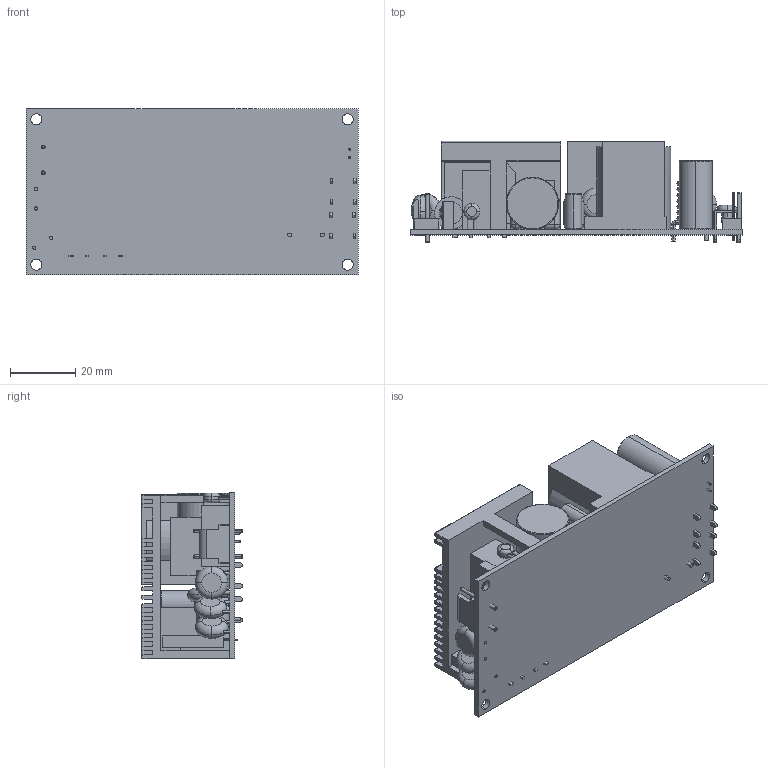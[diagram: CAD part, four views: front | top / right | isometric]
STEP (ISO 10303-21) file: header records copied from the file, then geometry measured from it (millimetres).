
FILE_DESCRIPTION (( 'STEP AP203' ), '1' );
FILE_NAME ('EPL225PS-1 組合件.STEP', '2015-02-16T02:46:06', ( 'shifalin@msn.com' ), ( '' ), 'SwSTEP 2.0', 'SolidWorks 2010', '' );
FILE_SCHEMA (( 'CONFIG_CONTROL_DESIGN' ));
Length unit declared in the file: millimetre
Products named in the file (22): 2-2 2.54mm; EPL225PS-1 組合件; x-cap 18X11; FUSE; MEF10X10; Cap-8-21.3; Cap-10X21; ATQ-27; ER2826; 2X4 PCB; BRIDGE 18X22; 3.96 mm Locking Header 3-2pin; Common-choke; TO-220; Cap-16-25; Y-Cap; MEF15X10; Cap-5-11; Inductor R6x15; HSV 50x27x36.5 WUC-91C039B-36.5; NTC-5mm; G14
Assembly tree (30 placements, depth 2):
  EPL225PS-1 組合件
    Y-Cap  x6
    Cap-16-25
    Cap-8-21.3  x2
    FUSE  x2
    BRIDGE 18X22
    Common-choke  x2
    G14  x2
    2X4 PCB
    MEF10X10
    MEF15X10
    Inductor R6x15
    ATQ-27
    x-cap 18X11
    HSV 50x27x36.5 WUC-91C039B-36.5
    2-2 2.54mm
    Cap-10X21
    ER2826
    NTC-5mm
    Cap-5-11
    TO-220
    3.96 mm Locking Header 3-2pin
Bounding box: 101.6 x 31 x 50.8 mm (x, y, z)
Volume: 63668.1 mm3; surface area: 41499.2 mm2
Topology: 30 solids, 30 shells, 683 faces, 1631 edges, 1013 vertices
Faces by surface type: plane 343, cylinder 209, torus 106, sphere 16, bspline 9
Entity records: 19210 total; most frequent: CARTESIAN_POINT 4033, DIRECTION 2776, ORIENTED_EDGE 2538, EDGE_CURVE 1269, AXIS2_PLACEMENT_3D 1008, VERTEX_POINT 803, VECTOR 760, LINE 760
